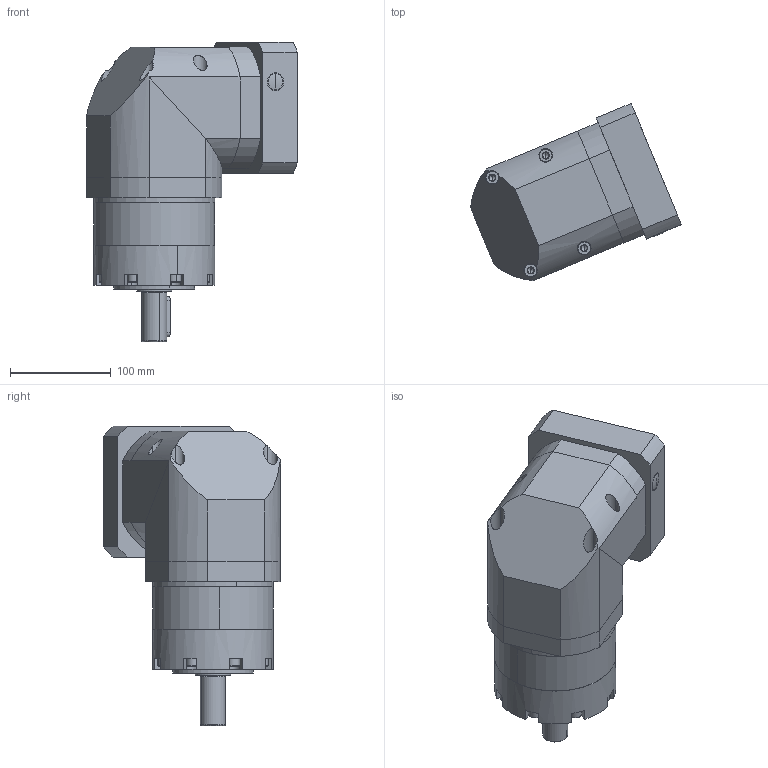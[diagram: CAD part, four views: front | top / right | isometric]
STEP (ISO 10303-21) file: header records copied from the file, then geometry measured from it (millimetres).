
FILE_DESCRIPTION (( 'STEP AP203' ), '1' );
FILE_NAME ('LSER120-(L1)-S2-P2-110145M8.STEP', '2024-11-14T09:33:33', ( '微软用户' ), ( '微软中国' ), 'SwSTEP 2.0', 'SolidWorks 2022', '' );
FILE_SCHEMA (( 'CONFIG_CONTROL_DESIGN' ));
Length unit declared in the file: millimetre
Products named in the file (1): LSER120-(L1)-S2-P2-110145M8
Bounding box: 209.04 x 175.65 x 297.5 mm (x, y, z)
Volume: 3539426.8 mm3; surface area: 350488.8 mm2
Topology: 15 solids, 15 shells, 748 faces, 1647 edges, 944 vertices
Faces by surface type: plane 334, cylinder 203, cone 173, torus 38
Entity records: 21404 total; most frequent: CARTESIAN_POINT 4990, DIRECTION 3646, ORIENTED_EDGE 3186, EDGE_CURVE 1593, AXIS2_PLACEMENT_3D 1463, VERTEX_POINT 944, EDGE_LOOP 839, ADVANCED_FACE 748
